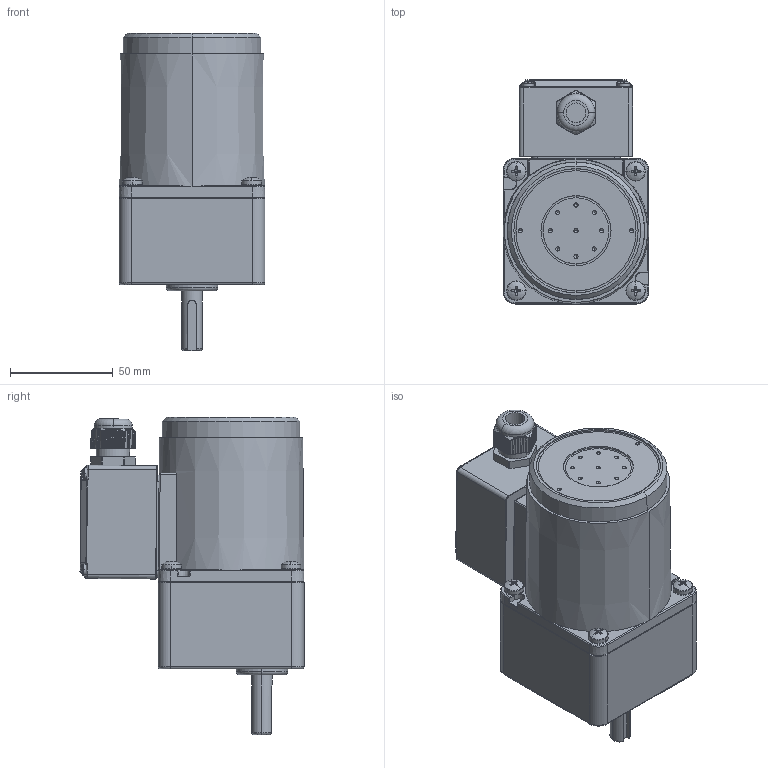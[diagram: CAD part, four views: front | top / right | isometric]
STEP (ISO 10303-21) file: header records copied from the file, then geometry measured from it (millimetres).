
FILE_DESCRIPTION (( 'STEP AP203' ), '1' );
FILE_NAME ('3IK15GN-CT(3GN3K-200K）.STEP', '2023-08-08T03:15:40', ( 'Windows User' ), ( 'P R C' ), 'SwSTEP 2.0', 'SolidWorks 2019', '' );
FILE_SCHEMA (( 'CONFIG_CONTROL_DESIGN' ));
Length unit declared in the file: millimetre
Products named in the file (13): ^__3IK15GN-CT(3GN3K-200K）(2)_3IK15GN-CT(3GN3K-200K）; 复件 (2) ^_3IK15GN-CT(3GN3K-200K）(2)_3IK15GN-CT(3GN3K-200K）; 3IK15GN-CT(3GN3K-200K）(2)^3IK15GN-CT(3GN3K-200K）; 复件 (6) ^_3IK15GN-CT(3GN3K-200K）(2)_3IK15GN-CT(3GN3K-200K）; 复件 (4) ^_3IK15GN-CT(3GN3K-200K）(2)_3IK15GN-CT(3GN3K-200K）; 3IK15GN-CT(3GN3K-200K）; 复件 (2) ^__3IK15GN-CT(3GN3K-200K）(2)_3IK15GN-CT(3GN3K-200K）; 复件 (5) ^_3IK15GN-CT(3GN3K-200K）(2)_3IK15GN-CT(3GN3K-200K）; 3GN3k-200K^3IK15GN-CT(3GN3K-200K）(2)_3IK15GN-CT(3GN3K-200K）; ^_3IK15GN-CT(3GN3K-200K）(2)_3IK15GN-CT(3GN3K-200K）; ^3IK15GN-CT(3GN3K-200K）(2)_3IK15GN-CT(3GN3K-200K）; 复件 (3) ^_3IK15GN-CT(3GN3K-200K）(2)_3IK15GN-CT(3GN3K-200K）
Assembly tree (15 placements, depth 5):
  3IK15GN-CT(3GN3K-200K）
    3IK15GN-CT(3GN3K-200K）(2)^3IK15GN-CT(3GN3K-200K）
      ^3IK15GN-CT(3GN3K-200K）(2)_3IK15GN-CT(3GN3K-200K）
        ^_3IK15GN-CT(3GN3K-200K）(2)_3IK15GN-CT(3GN3K-200K）
          ^__3IK15GN-CT(3GN3K-200K）(2)_3IK15GN-CT(3GN3K-200K）
          复件 (2) ^__3IK15GN-CT(3GN3K-200K）(2)_3IK15GN-CT(3GN3K-200K）  x4
        ^_3IK15GN-CT(3GN3K-200K）(2)_3IK15GN-CT(3GN3K-200K）
        复件 (2) ^_3IK15GN-CT(3GN3K-200K）(2)_3IK15GN-CT(3GN3K-200K）
        复件 (3) ^_3IK15GN-CT(3GN3K-200K）(2)_3IK15GN-CT(3GN3K-200K）
        复件 (4) ^_3IK15GN-CT(3GN3K-200K）(2)_3IK15GN-CT(3GN3K-200K）
        复件 (5) ^_3IK15GN-CT(3GN3K-200K）(2)_3IK15GN-CT(3GN3K-200K）
        复件 (6) ^_3IK15GN-CT(3GN3K-200K）(2)_3IK15GN-CT(3GN3K-200K）
      3GN3k-200K^3IK15GN-CT(3GN3K-200K）(2)_3IK15GN-CT(3GN3K-200K）
Bounding box: 70.8 x 108.75 x 154 mm (x, y, z)
Volume: 635965 mm3; surface area: 76018.4 mm2
Topology: 12 solids, 12 shells, 1812 faces, 4659 edges, 2876 vertices
Faces by surface type: cone 744, cylinder 605, plane 278, torus 109, bspline 51, sphere 25
Entity records: 47171 total; most frequent: CARTESIAN_POINT 14426, DIRECTION 6993, ORIENTED_EDGE 6504, EDGE_CURVE 3252, AXIS2_PLACEMENT_3D 2919, VERTEX_POINT 2021, CIRCLE 1659, EDGE_LOOP 1349
